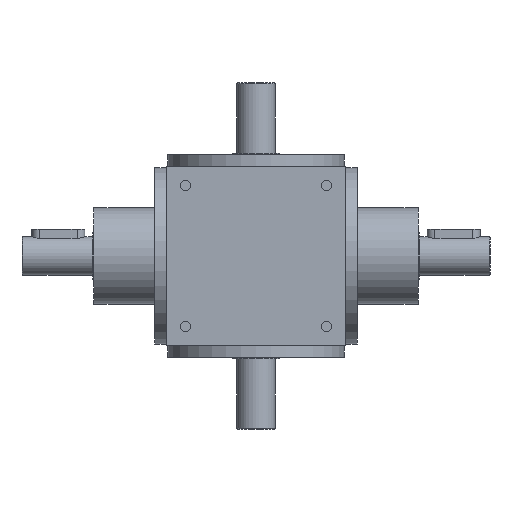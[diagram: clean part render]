
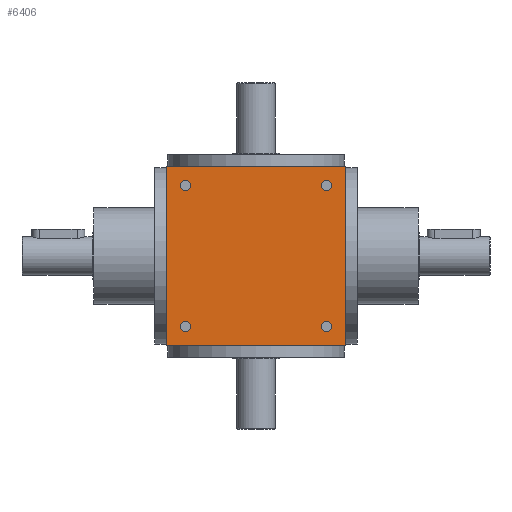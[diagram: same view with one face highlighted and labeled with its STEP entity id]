
A CAD part, left-side view. The second image highlights one B-rep face of the part: STEP entity #6406.
In plain terms, the highlighted planar face has unit normal (-1, 0, 0).
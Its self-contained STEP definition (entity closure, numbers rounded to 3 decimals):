
#217 = DIRECTION ( 'NONE',  ( 0., 0., -1. ) ) ;
#231 = DIRECTION ( 'NONE',  ( 1., 0., 0. ) ) ;
#268 = CARTESIAN_POINT ( 'NONE',  ( -140., -110., -110. ) ) ;
#634 = DIRECTION ( 'NONE',  ( 0., 0., -1. ) ) ;
#745 = CARTESIAN_POINT ( 'NONE',  ( -140., -110., 110. ) ) ;
#848 = DIRECTION ( 'NONE',  ( 0., 0., -1. ) ) ;
#902 = DIRECTION ( 'NONE',  ( 1., 0., 0. ) ) ;
#931 = VERTEX_POINT ( 'NONE', #5033 ) ;
#958 = CARTESIAN_POINT ( 'NONE',  ( -140., -110., 110. ) ) ;
#1159 = CARTESIAN_POINT ( 'NONE',  ( -140., -140., 140. ) ) ;
#1255 = VERTEX_POINT ( 'NONE', #2435 ) ;
#1300 = CARTESIAN_POINT ( 'NONE',  ( -140., 110., 102. ) ) ;
#1332 = DIRECTION ( 'NONE',  ( 0., 0., -1. ) ) ;
#1336 = DIRECTION ( 'NONE',  ( 1., 0., 0. ) ) ;
#1403 = DIRECTION ( 'NONE',  ( 1., 0., 0. ) ) ;
#1440 = CARTESIAN_POINT ( 'NONE',  ( -140., 110., -110. ) ) ;
#1650 = CARTESIAN_POINT ( 'NONE',  ( -140., -110., -102. ) ) ;
#1848 = FACE_BOUND ( 'NONE', #4849, .T. ) ;
#1854 = FACE_OUTER_BOUND ( 'NONE', #2647, .T. ) ;
#1905 = EDGE_CURVE ( 'NONE', #3227, #4414, #4319, .T. ) ;
#1921 = FACE_BOUND ( 'NONE', #5579, .T. ) ;
#1945 = EDGE_CURVE ( 'NONE', #5053, #5994, #4197, .T. ) ;
#1951 = FACE_BOUND ( 'NONE', #2308, .T. ) ;
#1980 = EDGE_CURVE ( 'NONE', #931, #2167, #4042, .T. ) ;
#2007 = EDGE_CURVE ( 'NONE', #4972, #7922, #3910, .T. ) ;
#2015 = FACE_BOUND ( 'NONE', #4833, .T. ) ;
#2039 = DIRECTION ( 'NONE',  ( 0., 0., -1. ) ) ;
#2067 = DIRECTION ( 'NONE',  ( 1., 0., 0. ) ) ;
#2081 = CARTESIAN_POINT ( 'NONE',  ( -140., 110., 110. ) ) ;
#2167 = VERTEX_POINT ( 'NONE', #7048 ) ;
#2188 = EDGE_CURVE ( 'NONE', #6856, #1255, #3237, .T. ) ;
#2249 = EDGE_CURVE ( 'NONE', #3860, #7985, #3006, .T. ) ;
#2261 = EDGE_CURVE ( 'NONE', #1255, #3860, #3097, .T. ) ;
#2271 = EDGE_CURVE ( 'NONE', #7985, #6856, #3002, .T. ) ;
#2274 = EDGE_CURVE ( 'NONE', #7922, #4972, #2986, .T. ) ;
#2283 = EDGE_CURVE ( 'NONE', #2167, #931, #2889, .T. ) ;
#2286 = EDGE_CURVE ( 'NONE', #5994, #5053, #2925, .T. ) ;
#2297 = EDGE_CURVE ( 'NONE', #4414, #3227, #2875, .T. ) ;
#2308 = EDGE_LOOP ( 'NONE', ( #5609, #7342 ) ) ;
#2325 = CARTESIAN_POINT ( 'NONE',  ( -140., -110., 118. ) ) ;
#2435 = CARTESIAN_POINT ( 'NONE',  ( -140., 140., -140. ) ) ;
#2647 = EDGE_LOOP ( 'NONE', ( #7289, #6126, #6177, #6131 ) ) ;
#2695 = DIRECTION ( 'NONE',  ( 0., 0., -1. ) ) ;
#2780 = CARTESIAN_POINT ( 'NONE',  ( -140., -140., 140. ) ) ;
#2875 = CIRCLE ( 'NONE', #5456, 8. ) ;
#2889 = CIRCLE ( 'NONE', #5468, 8. ) ;
#2925 = CIRCLE ( 'NONE', #5475, 8. ) ;
#2938 = VECTOR ( 'NONE', #2695, 1000. ) ;
#2973 = CARTESIAN_POINT ( 'NONE',  ( -140., -110., 102. ) ) ;
#2984 = VECTOR ( 'NONE', #3402, 1000. ) ;
#2986 = CIRCLE ( 'NONE', #5477, 8. ) ;
#2996 = VECTOR ( 'NONE', #3873, 1000. ) ;
#3002 = LINE ( 'NONE', #2780, #2938 ) ;
#3006 = LINE ( 'NONE', #4084, #2996 ) ;
#3097 = LINE ( 'NONE', #3110, #2984 ) ;
#3110 = CARTESIAN_POINT ( 'NONE',  ( -140., 140., 140. ) ) ;
#3187 = VECTOR ( 'NONE', #5234, 1000. ) ;
#3216 = AXIS2_PLACEMENT_3D ( 'NONE', #7223, #7213, #7205 ) ;
#3227 = VERTEX_POINT ( 'NONE', #1650 ) ;
#3237 = LINE ( 'NONE', #5637, #3187 ) ;
#3342 = CARTESIAN_POINT ( 'NONE',  ( -140., 110., 118. ) ) ;
#3402 = DIRECTION ( 'NONE',  ( 0., 0., 1. ) ) ;
#3860 = VERTEX_POINT ( 'NONE', #6345 ) ;
#3873 = DIRECTION ( 'NONE',  ( 0., -1., 0. ) ) ;
#3910 = CIRCLE ( 'NONE', #5749, 8. ) ;
#4042 = CIRCLE ( 'NONE', #5785, 8. ) ;
#4084 = CARTESIAN_POINT ( 'NONE',  ( -140., 140., 140. ) ) ;
#4197 = CIRCLE ( 'NONE', #5815, 8. ) ;
#4319 = CIRCLE ( 'NONE', #5845, 8. ) ;
#4414 = VERTEX_POINT ( 'NONE', #5125 ) ;
#4613 = DIRECTION ( 'NONE',  ( 0., 0., -1. ) ) ;
#4800 = DIRECTION ( 'NONE',  ( 1., 0., 0. ) ) ;
#4833 = EDGE_LOOP ( 'NONE', ( #6862, #6996 ) ) ;
#4849 = EDGE_LOOP ( 'NONE', ( #6852, #7322 ) ) ;
#4929 = CARTESIAN_POINT ( 'NONE',  ( -140., 110., 110. ) ) ;
#4972 = VERTEX_POINT ( 'NONE', #3342 ) ;
#5033 = CARTESIAN_POINT ( 'NONE',  ( -140., 110., -102. ) ) ;
#5053 = VERTEX_POINT ( 'NONE', #2325 ) ;
#5125 = CARTESIAN_POINT ( 'NONE',  ( -140., -110., -118. ) ) ;
#5234 = DIRECTION ( 'NONE',  ( 0., 1., 0. ) ) ;
#5456 = AXIS2_PLACEMENT_3D ( 'NONE', #268, #231, #217 ) ;
#5468 = AXIS2_PLACEMENT_3D ( 'NONE', #1440, #1403, #1332 ) ;
#5475 = AXIS2_PLACEMENT_3D ( 'NONE', #958, #902, #848 ) ;
#5477 = AXIS2_PLACEMENT_3D ( 'NONE', #2081, #2067, #2039 ) ;
#5490 = DIRECTION ( 'NONE',  ( 1., 0., 0. ) ) ;
#5562 = DIRECTION ( 'NONE',  ( 0., 0., -1. ) ) ;
#5579 = EDGE_LOOP ( 'NONE', ( #6676, #7330 ) ) ;
#5609 = ORIENTED_EDGE ( 'NONE', *, *, #2007, .T. ) ;
#5637 = CARTESIAN_POINT ( 'NONE',  ( -140., 140., -140. ) ) ;
#5749 = AXIS2_PLACEMENT_3D ( 'NONE', #4929, #4800, #4613 ) ;
#5785 = AXIS2_PLACEMENT_3D ( 'NONE', #6984, #6884, #6813 ) ;
#5815 = AXIS2_PLACEMENT_3D ( 'NONE', #745, #1336, #634 ) ;
#5845 = AXIS2_PLACEMENT_3D ( 'NONE', #6210, #5490, #5562 ) ;
#5994 = VERTEX_POINT ( 'NONE', #2973 ) ;
#6126 = ORIENTED_EDGE ( 'NONE', *, *, #2261, .F. ) ;
#6131 = ORIENTED_EDGE ( 'NONE', *, *, #2271, .F. ) ;
#6163 = CARTESIAN_POINT ( 'NONE',  ( -140., -140., -140. ) ) ;
#6177 = ORIENTED_EDGE ( 'NONE', *, *, #2188, .F. ) ;
#6210 = CARTESIAN_POINT ( 'NONE',  ( -140., -110., -110. ) ) ;
#6345 = CARTESIAN_POINT ( 'NONE',  ( -140., 140., 140. ) ) ;
#6406 = ADVANCED_FACE ( 'NONE', ( #1854, #1951, #1921, #2015, #1848 ), #7236, .F. ) ;
#6676 = ORIENTED_EDGE ( 'NONE', *, *, #1980, .T. ) ;
#6813 = DIRECTION ( 'NONE',  ( 0., 0., -1. ) ) ;
#6852 = ORIENTED_EDGE ( 'NONE', *, *, #1905, .T. ) ;
#6856 = VERTEX_POINT ( 'NONE', #6163 ) ;
#6862 = ORIENTED_EDGE ( 'NONE', *, *, #1945, .T. ) ;
#6884 = DIRECTION ( 'NONE',  ( 1., 0., 0. ) ) ;
#6984 = CARTESIAN_POINT ( 'NONE',  ( -140., 110., -110. ) ) ;
#6996 = ORIENTED_EDGE ( 'NONE', *, *, #2286, .T. ) ;
#7048 = CARTESIAN_POINT ( 'NONE',  ( -140., 110., -118. ) ) ;
#7205 = DIRECTION ( 'NONE',  ( 0., 0., -1. ) ) ;
#7213 = DIRECTION ( 'NONE',  ( 1., 0., 0. ) ) ;
#7223 = CARTESIAN_POINT ( 'NONE',  ( -140., -140., 140. ) ) ;
#7236 = PLANE ( 'NONE',  #3216 ) ;
#7289 = ORIENTED_EDGE ( 'NONE', *, *, #2249, .F. ) ;
#7322 = ORIENTED_EDGE ( 'NONE', *, *, #2297, .T. ) ;
#7330 = ORIENTED_EDGE ( 'NONE', *, *, #2283, .T. ) ;
#7342 = ORIENTED_EDGE ( 'NONE', *, *, #2274, .T. ) ;
#7922 = VERTEX_POINT ( 'NONE', #1300 ) ;
#7985 = VERTEX_POINT ( 'NONE', #1159 ) ;
